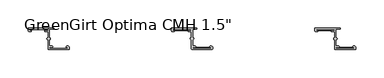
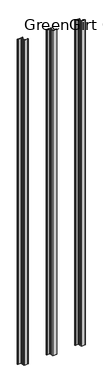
"""IFC4 building model written with IfcOpenShell, lengths in millimetres: fastener geometry."""

from ifc_helpers import new_model, si_unit, frame, origin, origin_with_axes, place, context, project, spatial, polyline, circle_curve, outline, extrude, source, transform, mapped, element, save
from ifc_brep_helpers import plane_surface, cylinder_surface, revolved_surface, advanced_brep


def fastener_e6e345ec(model_context):
    return source(origin(), model_context, "Body", "SolidModel", [
        advanced_brep(
        [(2340.102, -2.794, 3048.0), (2371.471, -2.794, 3048.0), (2371.471, -4.5212, 3048.0), (2367.28, -4.5212, 3048.0), (2367.28, -6.5532, 3048.0), (2371.471, -6.5532, 3048.0), (2372.233, -7.3152, 3048.0), (2372.233, -17.7601563, 3048.0), (2371.3845567, -17.7601563, 3048.0), (2371.3845567, -20.4288947, 3048.0), (2372.233, -20.4288947, 3048.0), (2372.233, -37.3379766, 3048.0), (2372.995, -38.0999766, 3048.0), (2408.8513242, -38.1, 3048.0), (2409.571, -37.3379766, 3048.0), (2409.571, -34.4677766, 3048.0), (2407.539, -32.4357766, 3048.0), (2405.253, -32.4357766, 3048.0), (2405.253, -34.4677766, 3048.0), (2406.269, -34.4677766, 3048.0), (2406.269, -36.1949766, 3048.0), (2374.9, -36.1949766, 3048.0), (2374.9, -34.4677766, 3048.0), (2379.091, -34.4677766, 3048.0), (2379.091, -32.4357766, 3048.0), (2374.9, -32.4357766, 3048.0), (2374.138, -31.6737766, 3048.0), (2374.138, -20.4279799, 3048.0), (2374.9869007, -20.4279799, 3048.0), (2374.9869007, -17.7601563, 3048.0), (2374.138, -17.7601563, 3048.0), (2374.138, -2.667, 3048.0), (2374.9, -1.905, 3048.0), (2380.996, -1.905, 3048.0), (2380.996, 0.0, 3048.0), (2337.562, 0.0, 3048.0), (2336.8, -0.762, 3048.0), (2336.8, -4.5212, 3048.0), (2338.832, -6.5532, 3048.0), (2341.118, -6.5532, 3048.0), (2341.118, -4.5212, 3048.0), (2340.102, -4.5212, 3048.0), (2340.102, -2.794, 0.0), (2340.102, -4.5212, 0.0), (2341.118, -4.5212, 0.0), (2341.118, -6.5532, 0.0), (2338.832, -6.5532, 0.0), (2336.8, -4.5212, 0.0), (2336.8, -0.762, 0.0), (2337.562, 0.0, 0.0), (2380.996, 0.0, 0.0), (2380.996, -1.905, 0.0), (2374.9, -1.905, 0.0), (2374.138, -2.667, 0.0), (2374.138, -17.7601563, 0.0), (2374.9869007, -17.7601563, 0.0), (2374.9869007, -20.4279799, 0.0), (2374.138, -20.4279799, 0.0), (2374.138, -31.6737766, 0.0), (2374.9, -32.4357766, 0.0), (2379.091, -32.4357766, 0.0), (2379.091, -34.4677766, 0.0), (2374.9, -34.4677766, 0.0), (2374.9, -36.1949766, 0.0), (2406.269, -36.1949766, 0.0), (2406.269, -34.4677766, 0.0), (2405.253, -34.4677766, 0.0), (2405.253, -32.4357766, 0.0), (2407.539, -32.4357766, 0.0), (2409.571, -34.4677766, 0.0), (2409.571, -37.3379766, 0.0), (2408.809, -38.0999766, 0.0), (2372.9676774, -38.1, 0.0), (2372.233, -37.3379766, 0.0), (2372.233, -20.4288947, 0.0), (2371.3845567, -20.4288947, 0.0), (2371.3845567, -17.7601563, 0.0), (2372.233, -17.7601563, 0.0), (2372.233, -7.3152, 0.0), (2371.471, -6.5532, 0.0), (2367.28, -6.5532, 0.0), (2367.28, -4.5212, 0.0), (2371.471, -4.5212, 0.0), (2371.471, -2.794, 0.0)],
        [
            (0, 1),
            (1, 2, circle_curve(frame((2371.471, -3.6576, 3048.0), z_axis=(0.0, 0.0, -1.0), x_axis=(1.0, 0.0, 0.0)), 0.8636)),
            (2, 3),
            (3, 4, circle_curve(frame((2367.28, -5.5372, 3048.0), z_axis=(0.0, 0.0, 1.0), x_axis=(1.0, 0.0, 0.0)), 1.016)),
            (4, 5),
            (5, 6, circle_curve(frame((2371.471, -7.3152, 3048.0), z_axis=(0.0, 0.0, -1.0), x_axis=(1.0, 0.0, 0.0)), 0.762)),
            (6, 7),
            (7, 8),
            (8, 9, circle_curve(frame((2371.3845567, -19.0945255, 3048.0), z_axis=(0.0, 0.0, 1.0), x_axis=(1.0, 0.0, 0.0)), 1.3343692)),
            (9, 10),
            (10, 11),
            (11, 12, circle_curve(frame((2372.995, -37.3379766, 3048.0), z_axis=(0.0, 0.0, 1.0), x_axis=(1.0, 0.0, 0.0)), 0.762)),
            (12, 13),
            (13, 14, circle_curve(frame((2408.809, -37.3379766, 3048.0), z_axis=(0.0, 0.0, 1.0), x_axis=(1.0, 0.0, 0.0)), 0.762)),
            (14, 15),
            (15, 16, circle_curve(frame((2407.539, -34.4677766, 3048.0), z_axis=(0.0, 0.0, 1.0), x_axis=(1.0, 0.0, 0.0)), 2.032)),
            (16, 17),
            (17, 18, circle_curve(frame((2405.253, -33.4517766, 3048.0), z_axis=(0.0, 0.0, 1.0), x_axis=(1.0, 0.0, 0.0)), 1.016)),
            (18, 19),
            (19, 20, circle_curve(frame((2406.269, -35.3313766, 3048.0), z_axis=(0.0, 0.0, -1.0), x_axis=(1.0, 0.0, 0.0)), 0.8636)),
            (20, 21),
            (21, 22, circle_curve(frame((2374.9, -35.3313766, 3048.0), z_axis=(0.0, 0.0, -1.0), x_axis=(1.0, 0.0, 0.0)), 0.8636)),
            (22, 23),
            (23, 24, circle_curve(frame((2379.091, -33.4517766, 3048.0), z_axis=(0.0, 0.0, 1.0), x_axis=(1.0, 0.0, 0.0)), 1.016)),
            (24, 25),
            (25, 26, circle_curve(frame((2374.9, -31.6737766, 3048.0), z_axis=(0.0, 0.0, -1.0), x_axis=(1.0, 0.0, 0.0)), 0.762)),
            (26, 27),
            (27, 28),
            (28, 29, circle_curve(frame((2374.9869007, -19.0940681, 3048.0), z_axis=(0.0, 0.0, 1.0), x_axis=(1.0, 0.0, 0.0)), 1.3339118)),
            (29, 30),
            (30, 31),
            (31, 32, circle_curve(frame((2374.9, -2.667, 3048.0), z_axis=(0.0, 0.0, -1.0), x_axis=(1.0, 0.0, 0.0)), 0.762)),
            (32, 33),
            (33, 34, circle_curve(frame((2380.996, -0.9525, 3048.0), z_axis=(0.0, 0.0, 1.0), x_axis=(1.0, 0.0, 0.0)), 0.9525)),
            (34, 35),
            (35, 36, circle_curve(frame((2337.562, -0.762, 3048.0), z_axis=(0.0, 0.0, 1.0), x_axis=(1.0, 0.0, 0.0)), 0.762)),
            (36, 37),
            (37, 38, circle_curve(frame((2338.832, -4.5212, 3048.0), z_axis=(0.0, 0.0, 1.0), x_axis=(1.0, 0.0, 0.0)), 2.032)),
            (38, 39),
            (39, 40, circle_curve(frame((2341.118, -5.5372, 3048.0), z_axis=(0.0, 0.0, 1.0), x_axis=(1.0, 0.0, 0.0)), 1.016)),
            (40, 41),
            (41, 0, circle_curve(frame((2340.102, -3.6576, 3048.0), z_axis=(0.0, 0.0, -1.0), x_axis=(1.0, 0.0, 0.0)), 0.8636)),
            (42, 43, circle_curve(frame((2340.102, -3.6576, 0.0), z_axis=(0.0, 0.0, 1.0), x_axis=(1.0, 0.0, 0.0)), 0.8636)),
            (43, 44),
            (44, 45, circle_curve(frame((2341.118, -5.5372, 0.0), z_axis=(0.0, 0.0, -1.0), x_axis=(1.0, 0.0, 0.0)), 1.016)),
            (45, 46),
            (46, 47, circle_curve(frame((2338.832, -4.5212, 0.0), z_axis=(0.0, 0.0, -1.0), x_axis=(1.0, 0.0, 0.0)), 2.032)),
            (47, 48),
            (48, 49, circle_curve(frame((2337.562, -0.762, 0.0), z_axis=(0.0, 0.0, -1.0), x_axis=(1.0, 0.0, 0.0)), 0.762)),
            (49, 50),
            (50, 51, circle_curve(frame((2380.996, -0.9525, 0.0), z_axis=(0.0, 0.0, -1.0), x_axis=(1.0, 0.0, 0.0)), 0.9525)),
            (51, 52),
            (52, 53, circle_curve(frame((2374.9, -2.667, 0.0), z_axis=(0.0, 0.0, 1.0), x_axis=(1.0, 0.0, 0.0)), 0.762)),
            (53, 54),
            (54, 55),
            (55, 56, circle_curve(frame((2374.9869007, -19.0940681, 0.0), z_axis=(0.0, 0.0, -1.0), x_axis=(1.0, 0.0, 0.0)), 1.3339118)),
            (56, 57),
            (57, 58),
            (58, 59, circle_curve(frame((2374.9, -31.6737766, 0.0), z_axis=(0.0, 0.0, 1.0), x_axis=(1.0, 0.0, 0.0)), 0.762)),
            (59, 60),
            (60, 61, circle_curve(frame((2379.091, -33.4517766, 0.0), z_axis=(0.0, 0.0, -1.0), x_axis=(1.0, 0.0, 0.0)), 1.016)),
            (61, 62),
            (62, 63, circle_curve(frame((2374.9, -35.3313766, 0.0), z_axis=(0.0, 0.0, 1.0), x_axis=(1.0, 0.0, 0.0)), 0.8636)),
            (63, 64),
            (64, 65, circle_curve(frame((2406.269, -35.3313766, 0.0), z_axis=(0.0, 0.0, 1.0), x_axis=(1.0, 0.0, 0.0)), 0.8636)),
            (65, 66),
            (66, 67, circle_curve(frame((2405.253, -33.4517766, 0.0), z_axis=(0.0, 0.0, -1.0), x_axis=(1.0, 0.0, 0.0)), 1.016)),
            (67, 68),
            (68, 69, circle_curve(frame((2407.539, -34.4677766, 0.0), z_axis=(0.0, 0.0, -1.0), x_axis=(1.0, 0.0, 0.0)), 2.032)),
            (69, 70),
            (70, 71, circle_curve(frame((2408.809, -37.3379766, 0.0), z_axis=(0.0, 0.0, -1.0), x_axis=(1.0, 0.0, 0.0)), 0.762)),
            (71, 72),
            (72, 73, circle_curve(frame((2372.995, -37.3379766, 0.0), z_axis=(0.0, 0.0, -1.0), x_axis=(1.0, 0.0, 0.0)), 0.762)),
            (73, 74),
            (74, 75),
            (75, 76, circle_curve(frame((2371.3845567, -19.0945255, 0.0), z_axis=(0.0, 0.0, -1.0), x_axis=(1.0, 0.0, 0.0)), 1.3343692)),
            (76, 77),
            (77, 78),
            (78, 79, circle_curve(frame((2371.471, -7.3152, 0.0), z_axis=(0.0, 0.0, 1.0), x_axis=(1.0, 0.0, 0.0)), 0.762)),
            (79, 80),
            (80, 81, circle_curve(frame((2367.28, -5.5372, 0.0), z_axis=(0.0, 0.0, -1.0), x_axis=(1.0, 0.0, 0.0)), 1.016)),
            (81, 82),
            (82, 83, circle_curve(frame((2371.471, -3.6576, 0.0), z_axis=(0.0, 0.0, 1.0), x_axis=(1.0, 0.0, 0.0)), 0.8636)),
            (83, 42),
            (0, 42),
            (83, 1),
            (82, 2),
            (81, 3),
            (80, 4),
            (79, 5),
            (78, 6),
            (77, 7),
            (76, 8),
            (75, 9),
            (74, 10),
            (73, 11),
            (72, 12),
            (71, 13),
            (70, 14),
            (69, 15),
            (68, 16),
            (67, 17),
            (66, 18),
            (65, 19),
            (64, 20),
            (63, 21),
            (62, 22),
            (61, 23),
            (60, 24),
            (59, 25),
            (58, 26),
            (57, 27),
            (56, 28),
            (55, 29),
            (54, 30),
            (53, 31),
            (52, 32),
            (51, 33),
            (50, 34),
            (49, 35),
            (48, 36),
            (47, 37),
            (46, 38),
            (45, 39),
            (44, 40),
            (43, 41),
        ],
        [
            plane_surface(frame((2371.471, -2.794, 3048.0), z_axis=(0.0, 0.0, 1.0), x_axis=(1.0, 0.0, 0.0))),
            plane_surface(frame((2371.471, -2.794, 0.0), z_axis=(0.0, 0.0, -1.0), x_axis=(-1.0, 0.0, 0.0))),
            plane_surface(frame((2340.102, -2.794, 3048.0), z_axis=(0.0, -1.0, 0.0), x_axis=(0.0, 0.0, -1.0))),
            revolved_surface(polyline([(2372.3346, -3.6576, 0.0), (2372.3346, -3.6576, 3048.0)]), (2371.471, -3.6576, 0.0), (0.0, 0.0, -1.0)),
            plane_surface(frame((2371.471, -4.5212, 3048.0), z_axis=(0.0, 1.0, 0.0), x_axis=(0.0, 0.0, -1.0))),
            cylinder_surface(frame((2367.28, -5.5372, 0.0), z_axis=(0.0, 0.0, 1.0), x_axis=(1.0, 0.0, 0.0)), 1.016),
            plane_surface(frame((2367.28, -6.5532, 3048.0), z_axis=(0.0, -1.0, 0.0), x_axis=(0.0, 0.0, -1.0))),
            revolved_surface(polyline([(2372.233, -7.3152, 0.0), (2372.233, -7.3152, 3048.0)]), (2371.471, -7.3152, 0.0), (0.0, 0.0, -1.0)),
            plane_surface(frame((2372.233, -7.3152, 3048.0), z_axis=(-1.0, 0.0, 0.0), x_axis=(0.0, 0.0, -1.0))),
            plane_surface(frame((2372.233, -17.7601563, 3048.0), z_axis=(0.0, 1.0, 0.0), x_axis=(0.0, 0.0, -1.0))),
            cylinder_surface(frame((2371.3845567, -19.0945255, 0.0), z_axis=(0.0, 0.0, 1.0), x_axis=(1.0, 0.0, 0.0)), 1.3343692),
            plane_surface(frame((2371.3845567, -20.4288947, 3048.0), z_axis=(0.0, -1.0, 0.0), x_axis=(0.0, 0.0, -1.0))),
            plane_surface(frame((2372.233, -20.4288947, 3048.0), z_axis=(-1.0, 0.0, 0.0), x_axis=(0.0, 0.0, -1.0))),
            cylinder_surface(frame((2372.995, -37.3379766, 0.0), z_axis=(0.0, 0.0, 1.0), x_axis=(1.0, 0.0, 0.0)), 0.762),
            plane_surface(frame((2372.9676774, -38.1, 3048.0), z_axis=(0.0, -1.0, 0.0), x_axis=(0.0, 0.0, -1.0))),
            cylinder_surface(frame((2408.809, -37.3379766, 0.0), z_axis=(0.0, 0.0, 1.0), x_axis=(1.0, 0.0, 0.0)), 0.762),
            plane_surface(frame((2409.571, -37.3379766, 3048.0), z_axis=(1.0, 1.3794275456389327e-12, 0.0), x_axis=(0.0, 0.0, -1.0))),
            cylinder_surface(frame((2407.539, -34.4677766, 0.0), z_axis=(0.0, 0.0, 1.0), x_axis=(1.0, 0.0, 0.0)), 2.032),
            plane_surface(frame((2407.539, -32.4357766, 3048.0), z_axis=(0.0, 1.0, 0.0), x_axis=(0.0, 0.0, -1.0))),
            cylinder_surface(frame((2405.253, -33.4517766, 0.0), z_axis=(0.0, 0.0, 1.0), x_axis=(1.0, 0.0, 0.0)), 1.016),
            plane_surface(frame((2405.253, -34.4677766, 3048.0), z_axis=(0.0, -1.0, 0.0), x_axis=(0.0, 0.0, -1.0))),
            revolved_surface(polyline([(2407.1326, -35.3313766, 0.0), (2407.1326, -35.3313766, 3048.0)]), (2406.269, -35.3313766, 0.0), (0.0, 0.0, -1.0)),
            plane_surface(frame((2406.269, -36.1949766, 3048.0), z_axis=(0.0, 1.0, 0.0), x_axis=(0.0, 0.0, -1.0))),
            revolved_surface(polyline([(2375.7636, -35.3313766, 0.0), (2375.7636, -35.3313766, 3048.0)]), (2374.9, -35.3313766, 0.0), (0.0, 0.0, -1.0)),
            plane_surface(frame((2374.9, -34.4677766, 3048.0), z_axis=(0.0, -1.0, 0.0), x_axis=(0.0, 0.0, -1.0))),
            cylinder_surface(frame((2379.091, -33.4517766, 0.0), z_axis=(0.0, 0.0, 1.0), x_axis=(1.0, 0.0, 0.0)), 1.016),
            plane_surface(frame((2379.091, -32.4357766, 3048.0), z_axis=(0.0, 1.0, 0.0), x_axis=(0.0, 0.0, -1.0))),
            revolved_surface(polyline([(2375.6620000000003, -31.6737766, 0.0), (2375.6620000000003, -31.6737766, 3048.0)]), (2374.9, -31.6737766, 0.0), (0.0, 0.0, -1.0)),
            plane_surface(frame((2374.138, -31.6737766, 3048.0), z_axis=(1.0, 0.0, 0.0), x_axis=(0.0, 0.0, -1.0))),
            plane_surface(frame((2374.138, -20.4279799, 3048.0), z_axis=(0.0, -1.0, 0.0), x_axis=(0.0, 0.0, -1.0))),
            cylinder_surface(frame((2374.9869007, -19.0940681, 0.0), z_axis=(0.0, 0.0, 1.0), x_axis=(1.0, 0.0, 0.0)), 1.3339118),
            plane_surface(frame((2374.9869007, -17.7601563, 3048.0), z_axis=(0.0, 1.0, 0.0), x_axis=(0.0, 0.0, -1.0))),
            plane_surface(frame((2374.138, -17.7601563, 3048.0), z_axis=(1.0, 0.0, 0.0), x_axis=(0.0, 0.0, -1.0))),
            revolved_surface(polyline([(2375.6620000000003, -2.667, 0.0), (2375.6620000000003, -2.667, 3048.0)]), (2374.9, -2.667, 0.0), (0.0, 0.0, -1.0)),
            plane_surface(frame((2374.9, -1.905, 3048.0), z_axis=(0.0, -1.0, 0.0), x_axis=(0.0, 0.0, -1.0))),
            cylinder_surface(frame((2380.996, -0.9525, 0.0), z_axis=(0.0, 0.0, 1.0), x_axis=(1.0, 0.0, 0.0)), 0.9525),
            plane_surface(frame((2380.996, 0.0, 3048.0), z_axis=(0.0, 1.0, 0.0), x_axis=(0.0, 0.0, -1.0))),
            cylinder_surface(frame((2337.562, -0.762, 0.0), z_axis=(0.0, 0.0, 1.0), x_axis=(1.0, 0.0, 0.0)), 0.762),
            plane_surface(frame((2336.8, -0.762, 3048.0), z_axis=(-1.0, 2.681638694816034e-11, 0.0), x_axis=(0.0, 0.0, -1.0))),
            cylinder_surface(frame((2338.832, -4.5212, 0.0), z_axis=(0.0, 0.0, 1.0), x_axis=(1.0, 0.0, 0.0)), 2.032),
            plane_surface(frame((2338.832, -6.5532, 3048.0), z_axis=(0.0, -1.0, 0.0), x_axis=(0.0, 0.0, -1.0))),
            cylinder_surface(frame((2341.118, -5.5372, 0.0), z_axis=(0.0, 0.0, 1.0), x_axis=(1.0, 0.0, 0.0)), 1.016),
            plane_surface(frame((2341.118, -4.5212, 3048.0), z_axis=(0.0, 1.0, 0.0), x_axis=(0.0, 0.0, -1.0))),
            revolved_surface(polyline([(2340.9656, -3.6576, 0.0), (2340.9656, -3.6576, 3048.0)]), (2340.102, -3.6576, 0.0), (0.0, 0.0, -1.0)),
        ],
        [
            (0, [[1, 2, 3, 4, 5, 6, 7, 8, 9, 10, 11, 12, 13, 14, 15, 16, 17, 18, 19, 20, 21, 22, 23, 24, 25, 26, 27, 28, 29, 30, 31, 32, 33, 34, 35, 36, 37, 38, 39, 40, 41, 42]]),
            (1, [[43, 44, 45, 46, 47, 48, 49, 50, 51, 52, 53, 54, 55, 56, 57, 58, 59, 60, 61, 62, 63, 64, 65, 66, 67, 68, 69, 70, 71, 72, 73, 74, 75, 76, 77, 78, 79, 80, 81, 82, 83, 84]]),
            (2, [[-1, 85, -84, 86]]),
            (3, [[-2, -86, -83, 87]]),
            (4, [[-3, -87, -82, 88]]),
            (5, [[-4, -88, -81, 89]]),
            (6, [[-5, -89, -80, 90]]),
            (7, [[-6, -90, -79, 91]]),
            (8, [[-7, -91, -78, 92]]),
            (9, [[-8, -92, -77, 93]]),
            (10, [[-9, -93, -76, 94]]),
            (11, [[-10, -94, -75, 95]]),
            (12, [[-11, -95, -74, 96]]),
            (13, [[-12, -96, -73, 97]]),
            (14, [[-13, -97, -72, 98]]),
            (15, [[-14, -98, -71, 99]]),
            (16, [[-15, -99, -70, 100]]),
            (17, [[-16, -100, -69, 101]]),
            (18, [[-17, -101, -68, 102]]),
            (19, [[-18, -102, -67, 103]]),
            (20, [[-19, -103, -66, 104]]),
            (21, [[-20, -104, -65, 105]]),
            (22, [[-21, -105, -64, 106]]),
            (23, [[-22, -106, -63, 107]]),
            (24, [[-23, -107, -62, 108]]),
            (25, [[-24, -108, -61, 109]]),
            (26, [[-25, -109, -60, 110]]),
            (27, [[-26, -110, -59, 111]]),
            (28, [[-27, -111, -58, 112]]),
            (29, [[-28, -112, -57, 113]]),
            (30, [[-29, -113, -56, 114]]),
            (31, [[-30, -114, -55, 115]]),
            (32, [[-31, -115, -54, 116]]),
            (33, [[-32, -116, -53, 117]]),
            (34, [[-33, -117, -52, 118]]),
            (35, [[-34, -118, -51, 119]]),
            (36, [[-35, -119, -50, 120]]),
            (37, [[-36, -120, -49, 121]]),
            (38, [[-37, -121, -48, 122]]),
            (39, [[-38, -122, -47, 123]]),
            (40, [[-39, -123, -46, 124]]),
            (41, [[-40, -124, -45, 125]]),
            (42, [[-41, -125, -44, 126]]),
            (43, [[-42, -126, -43, -85]]),
        ],
    ),
        extrude(outline(polyline([(2371.09, -2.794), (2371.09, -4.5212), (2340.102, -4.5212), (2340.102, -2.794), (2371.09, -2.794)])), origin_with_axes(), (0.0, 0.0, 1.0), 3048.0),
        extrude(outline(polyline([(2406.269, -34.4677766), (2406.269, -36.1949766), (2375.281, -36.1949766), (2375.281, -34.4677766), (2406.269, -34.4677766)])), origin_with_axes(), (0.0, 0.0, 1.0), 3048.0),
        advanced_brep(
        [(2086.102, -2.794, 3048.0), (2117.471, -2.794, 3048.0), (2117.471, -4.5212, 3048.0), (2113.28, -4.5212, 3048.0), (2113.28, -6.5532, 3048.0), (2117.471, -6.5532, 3048.0), (2118.233, -7.3152, 3048.0), (2118.233, -17.7601563, 3048.0), (2117.3845567, -17.7601563, 3048.0), (2117.3845567, -20.4288947, 3048.0), (2118.233, -20.4288947, 3048.0), (2118.233, -37.3379766, 3048.0), (2118.995, -38.0999766, 3048.0), (2154.8513242, -38.1, 3048.0), (2155.571, -37.3379766, 3048.0), (2155.571, -34.4677766, 3048.0), (2153.539, -32.4357766, 3048.0), (2151.253, -32.4357766, 3048.0), (2151.253, -34.4677766, 3048.0), (2152.269, -34.4677766, 3048.0), (2152.269, -36.1949766, 3048.0), (2120.9, -36.1949766, 3048.0), (2120.9, -34.4677766, 3048.0), (2125.091, -34.4677766, 3048.0), (2125.091, -32.4357766, 3048.0), (2120.9, -32.4357766, 3048.0), (2120.138, -31.6737766, 3048.0), (2120.138, -20.4279799, 3048.0), (2120.9869007, -20.4279799, 3048.0), (2120.9869007, -17.7601563, 3048.0), (2120.138, -17.7601563, 3048.0), (2120.138, -2.667, 3048.0), (2120.9, -1.905, 3048.0), (2126.996, -1.905, 3048.0), (2126.996, 0.0, 3048.0), (2083.562, 0.0, 3048.0), (2082.8, -0.762, 3048.0), (2082.8, -4.5212, 3048.0), (2084.832, -6.5532, 3048.0), (2087.118, -6.5532, 3048.0), (2087.118, -4.5212, 3048.0), (2086.102, -4.5212, 3048.0), (2086.102, -2.794, 0.0), (2086.102, -4.5212, 0.0), (2087.118, -4.5212, 0.0), (2087.118, -6.5532, 0.0), (2084.832, -6.5532, 0.0), (2082.8, -4.5212, 0.0), (2082.8, -0.762, 0.0), (2083.562, 0.0, 0.0), (2126.996, 0.0, 0.0), (2126.996, -1.905, 0.0), (2120.9, -1.905, 0.0), (2120.138, -2.667, 0.0), (2120.138, -17.7601563, 0.0), (2120.9869007, -17.7601563, 0.0), (2120.9869007, -20.4279799, 0.0), (2120.138, -20.4279799, 0.0), (2120.138, -31.6737766, 0.0), (2120.9, -32.4357766, 0.0), (2125.091, -32.4357766, 0.0), (2125.091, -34.4677766, 0.0), (2120.9, -34.4677766, 0.0), (2120.9, -36.1949766, 0.0), (2152.269, -36.1949766, 0.0), (2152.269, -34.4677766, 0.0), (2151.253, -34.4677766, 0.0), (2151.253, -32.4357766, 0.0), (2153.539, -32.4357766, 0.0), (2155.571, -34.4677766, 0.0), (2155.571, -37.3379766, 0.0), (2154.809, -38.0999766, 0.0), (2118.9676774, -38.1, 0.0), (2118.233, -37.3379766, 0.0), (2118.233, -20.4288947, 0.0), (2117.3845567, -20.4288947, 0.0), (2117.3845567, -17.7601563, 0.0), (2118.233, -17.7601563, 0.0), (2118.233, -7.3152, 0.0), (2117.471, -6.5532, 0.0), (2113.28, -6.5532, 0.0), (2113.28, -4.5212, 0.0), (2117.471, -4.5212, 0.0), (2117.471, -2.794, 0.0)],
        [
            (0, 1),
            (1, 2, circle_curve(frame((2117.471, -3.6576, 3048.0), z_axis=(0.0, 0.0, -1.0), x_axis=(1.0, 0.0, 0.0)), 0.8636)),
            (2, 3),
            (3, 4, circle_curve(frame((2113.28, -5.5372, 3048.0), z_axis=(0.0, 0.0, 1.0), x_axis=(1.0, 0.0, 0.0)), 1.016)),
            (4, 5),
            (5, 6, circle_curve(frame((2117.471, -7.3152, 3048.0), z_axis=(0.0, 0.0, -1.0), x_axis=(1.0, 0.0, 0.0)), 0.762)),
            (6, 7),
            (7, 8),
            (8, 9, circle_curve(frame((2117.3845567, -19.0945255, 3048.0), z_axis=(0.0, 0.0, 1.0), x_axis=(1.0, 0.0, 0.0)), 1.3343692)),
            (9, 10),
            (10, 11),
            (11, 12, circle_curve(frame((2118.995, -37.3379766, 3048.0), z_axis=(0.0, 0.0, 1.0), x_axis=(1.0, 0.0, 0.0)), 0.762)),
            (12, 13),
            (13, 14, circle_curve(frame((2154.809, -37.3379766, 3048.0), z_axis=(0.0, 0.0, 1.0), x_axis=(1.0, 0.0, 0.0)), 0.762)),
            (14, 15),
            (15, 16, circle_curve(frame((2153.539, -34.4677766, 3048.0), z_axis=(0.0, 0.0, 1.0), x_axis=(1.0, 0.0, 0.0)), 2.032)),
            (16, 17),
            (17, 18, circle_curve(frame((2151.253, -33.4517766, 3048.0), z_axis=(0.0, 0.0, 1.0), x_axis=(1.0, 0.0, 0.0)), 1.016)),
            (18, 19),
            (19, 20, circle_curve(frame((2152.269, -35.3313766, 3048.0), z_axis=(0.0, 0.0, -1.0), x_axis=(1.0, 0.0, 0.0)), 0.8636)),
            (20, 21),
            (21, 22, circle_curve(frame((2120.9, -35.3313766, 3048.0), z_axis=(0.0, 0.0, -1.0), x_axis=(1.0, 0.0, 0.0)), 0.8636)),
            (22, 23),
            (23, 24, circle_curve(frame((2125.091, -33.4517766, 3048.0), z_axis=(0.0, 0.0, 1.0), x_axis=(1.0, 0.0, 0.0)), 1.016)),
            (24, 25),
            (25, 26, circle_curve(frame((2120.9, -31.6737766, 3048.0), z_axis=(0.0, 0.0, -1.0), x_axis=(1.0, 0.0, 0.0)), 0.762)),
            (26, 27),
            (27, 28),
            (28, 29, circle_curve(frame((2120.9869007, -19.0940681, 3048.0), z_axis=(0.0, 0.0, 1.0), x_axis=(1.0, 0.0, 0.0)), 1.3339118)),
            (29, 30),
            (30, 31),
            (31, 32, circle_curve(frame((2120.9, -2.667, 3048.0), z_axis=(0.0, 0.0, -1.0), x_axis=(1.0, 0.0, 0.0)), 0.762)),
            (32, 33),
            (33, 34, circle_curve(frame((2126.996, -0.9525, 3048.0), z_axis=(0.0, 0.0, 1.0), x_axis=(1.0, 0.0, 0.0)), 0.9525)),
            (34, 35),
            (35, 36, circle_curve(frame((2083.562, -0.762, 3048.0), z_axis=(0.0, 0.0, 1.0), x_axis=(1.0, 0.0, 0.0)), 0.762)),
            (36, 37),
            (37, 38, circle_curve(frame((2084.832, -4.5212, 3048.0), z_axis=(0.0, 0.0, 1.0), x_axis=(1.0, 0.0, 0.0)), 2.032)),
            (38, 39),
            (39, 40, circle_curve(frame((2087.118, -5.5372, 3048.0), z_axis=(0.0, 0.0, 1.0), x_axis=(1.0, 0.0, 0.0)), 1.016)),
            (40, 41),
            (41, 0, circle_curve(frame((2086.102, -3.6576, 3048.0), z_axis=(0.0, 0.0, -1.0), x_axis=(1.0, 0.0, 0.0)), 0.8636)),
            (42, 43, circle_curve(frame((2086.102, -3.6576, 0.0), z_axis=(0.0, 0.0, 1.0), x_axis=(1.0, 0.0, 0.0)), 0.8636)),
            (43, 44),
            (44, 45, circle_curve(frame((2087.118, -5.5372, 0.0), z_axis=(0.0, 0.0, -1.0), x_axis=(1.0, 0.0, 0.0)), 1.016)),
            (45, 46),
            (46, 47, circle_curve(frame((2084.832, -4.5212, 0.0), z_axis=(0.0, 0.0, -1.0), x_axis=(1.0, 0.0, 0.0)), 2.032)),
            (47, 48),
            (48, 49, circle_curve(frame((2083.562, -0.762, 0.0), z_axis=(0.0, 0.0, -1.0), x_axis=(1.0, 0.0, 0.0)), 0.762)),
            (49, 50),
            (50, 51, circle_curve(frame((2126.996, -0.9525, 0.0), z_axis=(0.0, 0.0, -1.0), x_axis=(1.0, 0.0, 0.0)), 0.9525)),
            (51, 52),
            (52, 53, circle_curve(frame((2120.9, -2.667, 0.0), z_axis=(0.0, 0.0, 1.0), x_axis=(1.0, 0.0, 0.0)), 0.762)),
            (53, 54),
            (54, 55),
            (55, 56, circle_curve(frame((2120.9869007, -19.0940681, 0.0), z_axis=(0.0, 0.0, -1.0), x_axis=(1.0, 0.0, 0.0)), 1.3339118)),
            (56, 57),
            (57, 58),
            (58, 59, circle_curve(frame((2120.9, -31.6737766, 0.0), z_axis=(0.0, 0.0, 1.0), x_axis=(1.0, 0.0, 0.0)), 0.762)),
            (59, 60),
            (60, 61, circle_curve(frame((2125.091, -33.4517766, 0.0), z_axis=(0.0, 0.0, -1.0), x_axis=(1.0, 0.0, 0.0)), 1.016)),
            (61, 62),
            (62, 63, circle_curve(frame((2120.9, -35.3313766, 0.0), z_axis=(0.0, 0.0, 1.0), x_axis=(1.0, 0.0, 0.0)), 0.8636)),
            (63, 64),
            (64, 65, circle_curve(frame((2152.269, -35.3313766, 0.0), z_axis=(0.0, 0.0, 1.0), x_axis=(1.0, 0.0, 0.0)), 0.8636)),
            (65, 66),
            (66, 67, circle_curve(frame((2151.253, -33.4517766, 0.0), z_axis=(0.0, 0.0, -1.0), x_axis=(1.0, 0.0, 0.0)), 1.016)),
            (67, 68),
            (68, 69, circle_curve(frame((2153.539, -34.4677766, 0.0), z_axis=(0.0, 0.0, -1.0), x_axis=(1.0, 0.0, 0.0)), 2.032)),
            (69, 70),
            (70, 71, circle_curve(frame((2154.809, -37.3379766, 0.0), z_axis=(0.0, 0.0, -1.0), x_axis=(1.0, 0.0, 0.0)), 0.762)),
            (71, 72),
            (72, 73, circle_curve(frame((2118.995, -37.3379766, 0.0), z_axis=(0.0, 0.0, -1.0), x_axis=(1.0, 0.0, 0.0)), 0.762)),
            (73, 74),
            (74, 75),
            (75, 76, circle_curve(frame((2117.3845567, -19.0945255, 0.0), z_axis=(0.0, 0.0, -1.0), x_axis=(1.0, 0.0, 0.0)), 1.3343692)),
            (76, 77),
            (77, 78),
            (78, 79, circle_curve(frame((2117.471, -7.3152, 0.0), z_axis=(0.0, 0.0, 1.0), x_axis=(1.0, 0.0, 0.0)), 0.762)),
            (79, 80),
            (80, 81, circle_curve(frame((2113.28, -5.5372, 0.0), z_axis=(0.0, 0.0, -1.0), x_axis=(1.0, 0.0, 0.0)), 1.016)),
            (81, 82),
            (82, 83, circle_curve(frame((2117.471, -3.6576, 0.0), z_axis=(0.0, 0.0, 1.0), x_axis=(1.0, 0.0, 0.0)), 0.8636)),
            (83, 42),
            (0, 42),
            (83, 1),
            (82, 2),
            (81, 3),
            (80, 4),
            (79, 5),
            (78, 6),
            (77, 7),
            (76, 8),
            (75, 9),
            (74, 10),
            (73, 11),
            (72, 12),
            (71, 13),
            (70, 14),
            (69, 15),
            (68, 16),
            (67, 17),
            (66, 18),
            (65, 19),
            (64, 20),
            (63, 21),
            (62, 22),
            (61, 23),
            (60, 24),
            (59, 25),
            (58, 26),
            (57, 27),
            (56, 28),
            (55, 29),
            (54, 30),
            (53, 31),
            (52, 32),
            (51, 33),
            (50, 34),
            (49, 35),
            (48, 36),
            (47, 37),
            (46, 38),
            (45, 39),
            (44, 40),
            (43, 41),
        ],
        [
            plane_surface(frame((2117.471, -2.794, 3048.0), z_axis=(0.0, 0.0, 1.0), x_axis=(1.0, 0.0, 0.0))),
            plane_surface(frame((2117.471, -2.794, 0.0), z_axis=(0.0, 0.0, -1.0), x_axis=(-1.0, 0.0, 0.0))),
            plane_surface(frame((2086.102, -2.794, 3048.0), z_axis=(0.0, -1.0, 0.0), x_axis=(0.0, 0.0, -1.0))),
            revolved_surface(polyline([(2118.3346, -3.6576, 0.0), (2118.3346, -3.6576, 3048.0)]), (2117.471, -3.6576, 0.0), (0.0, 0.0, -1.0)),
            plane_surface(frame((2117.471, -4.5212, 3048.0), z_axis=(0.0, 1.0, 0.0), x_axis=(0.0, 0.0, -1.0))),
            cylinder_surface(frame((2113.28, -5.5372, 0.0), z_axis=(0.0, 0.0, 1.0), x_axis=(1.0, 0.0, 0.0)), 1.016),
            plane_surface(frame((2113.28, -6.5532, 3048.0), z_axis=(0.0, -1.0, 0.0), x_axis=(0.0, 0.0, -1.0))),
            revolved_surface(polyline([(2118.233, -7.3152, 0.0), (2118.233, -7.3152, 3048.0)]), (2117.471, -7.3152, 0.0), (0.0, 0.0, -1.0)),
            plane_surface(frame((2118.233, -7.3152, 3048.0), z_axis=(-1.0, 0.0, 0.0), x_axis=(0.0, 0.0, -1.0))),
            plane_surface(frame((2118.233, -17.7601563, 3048.0), z_axis=(0.0, 1.0, 0.0), x_axis=(0.0, 0.0, -1.0))),
            cylinder_surface(frame((2117.3845567, -19.0945255, 0.0), z_axis=(0.0, 0.0, 1.0), x_axis=(1.0, 0.0, 0.0)), 1.3343692),
            plane_surface(frame((2117.3845567, -20.4288947, 3048.0), z_axis=(0.0, -1.0, 0.0), x_axis=(0.0, 0.0, -1.0))),
            plane_surface(frame((2118.233, -20.4288947, 3048.0), z_axis=(-1.0, 0.0, 0.0), x_axis=(0.0, 0.0, -1.0))),
            cylinder_surface(frame((2118.995, -37.3379766, 0.0), z_axis=(0.0, 0.0, 1.0), x_axis=(1.0, 0.0, 0.0)), 0.762),
            plane_surface(frame((2118.9676774, -38.1, 3048.0), z_axis=(0.0, -1.0, 0.0), x_axis=(0.0, 0.0, -1.0))),
            cylinder_surface(frame((2154.809, -37.3379766, 0.0), z_axis=(0.0, 0.0, 1.0), x_axis=(1.0, 0.0, 0.0)), 0.762),
            plane_surface(frame((2155.571, -37.3379766, 3048.0), z_axis=(1.0, 1.3794275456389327e-12, 0.0), x_axis=(0.0, 0.0, -1.0))),
            cylinder_surface(frame((2153.539, -34.4677766, 0.0), z_axis=(0.0, 0.0, 1.0), x_axis=(1.0, 0.0, 0.0)), 2.032),
            plane_surface(frame((2153.539, -32.4357766, 3048.0), z_axis=(0.0, 1.0, 0.0), x_axis=(0.0, 0.0, -1.0))),
            cylinder_surface(frame((2151.253, -33.4517766, 0.0), z_axis=(0.0, 0.0, 1.0), x_axis=(1.0, 0.0, 0.0)), 1.016),
            plane_surface(frame((2151.253, -34.4677766, 3048.0), z_axis=(0.0, -1.0, 0.0), x_axis=(0.0, 0.0, -1.0))),
            revolved_surface(polyline([(2153.1326, -35.3313766, 0.0), (2153.1326, -35.3313766, 3048.0)]), (2152.269, -35.3313766, 0.0), (0.0, 0.0, -1.0)),
            plane_surface(frame((2152.269, -36.1949766, 3048.0), z_axis=(0.0, 1.0, 0.0), x_axis=(0.0, 0.0, -1.0))),
            revolved_surface(polyline([(2121.7636, -35.3313766, 0.0), (2121.7636, -35.3313766, 3048.0)]), (2120.9, -35.3313766, 0.0), (0.0, 0.0, -1.0)),
            plane_surface(frame((2120.9, -34.4677766, 3048.0), z_axis=(0.0, -1.0, 0.0), x_axis=(0.0, 0.0, -1.0))),
            cylinder_surface(frame((2125.091, -33.4517766, 0.0), z_axis=(0.0, 0.0, 1.0), x_axis=(1.0, 0.0, 0.0)), 1.016),
            plane_surface(frame((2125.091, -32.4357766, 3048.0), z_axis=(0.0, 1.0, 0.0), x_axis=(0.0, 0.0, -1.0))),
            revolved_surface(polyline([(2121.6620000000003, -31.6737766, 0.0), (2121.6620000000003, -31.6737766, 3048.0)]), (2120.9, -31.6737766, 0.0), (0.0, 0.0, -1.0)),
            plane_surface(frame((2120.138, -31.6737766, 3048.0), z_axis=(1.0, 0.0, 0.0), x_axis=(0.0, 0.0, -1.0))),
            plane_surface(frame((2120.138, -20.4279799, 3048.0), z_axis=(0.0, -1.0, 0.0), x_axis=(0.0, 0.0, -1.0))),
            cylinder_surface(frame((2120.9869007, -19.0940681, 0.0), z_axis=(0.0, 0.0, 1.0), x_axis=(1.0, 0.0, 0.0)), 1.3339118),
            plane_surface(frame((2120.9869007, -17.7601563, 3048.0), z_axis=(0.0, 1.0, 0.0), x_axis=(0.0, 0.0, -1.0))),
            plane_surface(frame((2120.138, -17.7601563, 3048.0), z_axis=(1.0, 0.0, 0.0), x_axis=(0.0, 0.0, -1.0))),
            revolved_surface(polyline([(2121.6620000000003, -2.667, 0.0), (2121.6620000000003, -2.667, 3048.0)]), (2120.9, -2.667, 0.0), (0.0, 0.0, -1.0)),
            plane_surface(frame((2120.9, -1.905, 3048.0), z_axis=(0.0, -1.0, 0.0), x_axis=(0.0, 0.0, -1.0))),
            cylinder_surface(frame((2126.996, -0.9525, 0.0), z_axis=(0.0, 0.0, 1.0), x_axis=(1.0, 0.0, 0.0)), 0.9525),
            plane_surface(frame((2126.996, 0.0, 3048.0), z_axis=(0.0, 1.0, 0.0), x_axis=(0.0, 0.0, -1.0))),
            cylinder_surface(frame((2083.562, -0.762, 0.0), z_axis=(0.0, 0.0, 1.0), x_axis=(1.0, 0.0, 0.0)), 0.762),
            plane_surface(frame((2082.8, -0.762, 3048.0), z_axis=(-1.0, 2.681638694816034e-11, 0.0), x_axis=(0.0, 0.0, -1.0))),
            cylinder_surface(frame((2084.832, -4.5212, 0.0), z_axis=(0.0, 0.0, 1.0), x_axis=(1.0, 0.0, 0.0)), 2.032),
            plane_surface(frame((2084.832, -6.5532, 3048.0), z_axis=(0.0, -1.0, 0.0), x_axis=(0.0, 0.0, -1.0))),
            cylinder_surface(frame((2087.118, -5.5372, 0.0), z_axis=(0.0, 0.0, 1.0), x_axis=(1.0, 0.0, 0.0)), 1.016),
            plane_surface(frame((2087.118, -4.5212, 3048.0), z_axis=(0.0, 1.0, 0.0), x_axis=(0.0, 0.0, -1.0))),
            revolved_surface(polyline([(2086.9656, -3.6576, 0.0), (2086.9656, -3.6576, 3048.0)]), (2086.102, -3.6576, 0.0), (0.0, 0.0, -1.0)),
        ],
        [
            (0, [[1, 2, 3, 4, 5, 6, 7, 8, 9, 10, 11, 12, 13, 14, 15, 16, 17, 18, 19, 20, 21, 22, 23, 24, 25, 26, 27, 28, 29, 30, 31, 32, 33, 34, 35, 36, 37, 38, 39, 40, 41, 42]]),
            (1, [[43, 44, 45, 46, 47, 48, 49, 50, 51, 52, 53, 54, 55, 56, 57, 58, 59, 60, 61, 62, 63, 64, 65, 66, 67, 68, 69, 70, 71, 72, 73, 74, 75, 76, 77, 78, 79, 80, 81, 82, 83, 84]]),
            (2, [[-1, 85, -84, 86]]),
            (3, [[-2, -86, -83, 87]]),
            (4, [[-3, -87, -82, 88]]),
            (5, [[-4, -88, -81, 89]]),
            (6, [[-5, -89, -80, 90]]),
            (7, [[-6, -90, -79, 91]]),
            (8, [[-7, -91, -78, 92]]),
            (9, [[-8, -92, -77, 93]]),
            (10, [[-9, -93, -76, 94]]),
            (11, [[-10, -94, -75, 95]]),
            (12, [[-11, -95, -74, 96]]),
            (13, [[-12, -96, -73, 97]]),
            (14, [[-13, -97, -72, 98]]),
            (15, [[-14, -98, -71, 99]]),
            (16, [[-15, -99, -70, 100]]),
            (17, [[-16, -100, -69, 101]]),
            (18, [[-17, -101, -68, 102]]),
            (19, [[-18, -102, -67, 103]]),
            (20, [[-19, -103, -66, 104]]),
            (21, [[-20, -104, -65, 105]]),
            (22, [[-21, -105, -64, 106]]),
            (23, [[-22, -106, -63, 107]]),
            (24, [[-23, -107, -62, 108]]),
            (25, [[-24, -108, -61, 109]]),
            (26, [[-25, -109, -60, 110]]),
            (27, [[-26, -110, -59, 111]]),
            (28, [[-27, -111, -58, 112]]),
            (29, [[-28, -112, -57, 113]]),
            (30, [[-29, -113, -56, 114]]),
            (31, [[-30, -114, -55, 115]]),
            (32, [[-31, -115, -54, 116]]),
            (33, [[-32, -116, -53, 117]]),
            (34, [[-33, -117, -52, 118]]),
            (35, [[-34, -118, -51, 119]]),
            (36, [[-35, -119, -50, 120]]),
            (37, [[-36, -120, -49, 121]]),
            (38, [[-37, -121, -48, 122]]),
            (39, [[-38, -122, -47, 123]]),
            (40, [[-39, -123, -46, 124]]),
            (41, [[-40, -124, -45, 125]]),
            (42, [[-41, -125, -44, 126]]),
            (43, [[-42, -126, -43, -85]]),
        ],
    ),
        extrude(outline(polyline([(2117.09, -2.794), (2117.09, -4.5212), (2086.102, -4.5212), (2086.102, -2.794), (2117.09, -2.794)])), origin_with_axes(), (0.0, 0.0, 1.0), 3048.0),
        extrude(outline(polyline([(2152.269, -34.4677766), (2152.269, -36.1949766), (2121.281, -36.1949766), (2121.281, -34.4677766), (2152.269, -34.4677766)])), origin_with_axes(), (0.0, 0.0, 1.0), 3048.0),
        advanced_brep(
        [(1832.102, -2.794, 3048.0), (1863.471, -2.794, 3048.0), (1863.471, -4.5212, 3048.0), (1859.28, -4.5212, 3048.0), (1859.28, -6.5532, 3048.0), (1863.471, -6.5532, 3048.0), (1864.233, -7.3152, 3048.0), (1864.233, -17.7601563, 3048.0), (1863.3845567, -17.7601563, 3048.0), (1863.3845567, -20.4288947, 3048.0), (1864.233, -20.4288947, 3048.0), (1864.233, -37.3379766, 3048.0), (1864.995, -38.0999766, 3048.0), (1900.8513242, -38.1, 3048.0), (1901.571, -37.3379766, 3048.0), (1901.571, -34.4677766, 3048.0), (1899.539, -32.4357766, 3048.0), (1897.253, -32.4357766, 3048.0), (1897.253, -34.4677766, 3048.0), (1898.269, -34.4677766, 3048.0), (1898.269, -36.1949766, 3048.0), (1866.9, -36.1949766, 3048.0), (1866.9, -34.4677766, 3048.0), (1871.091, -34.4677766, 3048.0), (1871.091, -32.4357766, 3048.0), (1866.9, -32.4357766, 3048.0), (1866.138, -31.6737766, 3048.0), (1866.138, -20.4279799, 3048.0), (1866.9869007, -20.4279799, 3048.0), (1866.9869007, -17.7601563, 3048.0), (1866.138, -17.7601563, 3048.0), (1866.138, -2.667, 3048.0), (1866.9, -1.905, 3048.0), (1872.996, -1.905, 3048.0), (1872.996, 0.0, 3048.0), (1829.562, 0.0, 3048.0), (1828.8, -0.762, 3048.0), (1828.8, -4.5212, 3048.0), (1830.832, -6.5532, 3048.0), (1833.118, -6.5532, 3048.0), (1833.118, -4.5212, 3048.0), (1832.102, -4.5212, 3048.0), (1832.102, -2.794, 0.0), (1832.102, -4.5212, 0.0), (1833.118, -4.5212, 0.0), (1833.118, -6.5532, 0.0), (1830.832, -6.5532, 0.0), (1828.8, -4.5212, 0.0), (1828.8, -0.762, 0.0), (1829.562, 0.0, 0.0), (1872.996, 0.0, 0.0), (1872.996, -1.905, 0.0), (1866.9, -1.905, 0.0), (1866.138, -2.667, 0.0), (1866.138, -17.7601563, 0.0), (1866.9869007, -17.7601563, 0.0), (1866.9869007, -20.4279799, 0.0), (1866.138, -20.4279799, 0.0), (1866.138, -31.6737766, 0.0), (1866.9, -32.4357766, 0.0), (1871.091, -32.4357766, 0.0), (1871.091, -34.4677766, 0.0), (1866.9, -34.4677766, 0.0), (1866.9, -36.1949766, 0.0), (1898.269, -36.1949766, 0.0), (1898.269, -34.4677766, 0.0), (1897.253, -34.4677766, 0.0), (1897.253, -32.4357766, 0.0), (1899.539, -32.4357766, 0.0), (1901.571, -34.4677766, 0.0), (1901.571, -37.3379766, 0.0), (1900.809, -38.0999766, 0.0), (1864.9676774, -38.1, 0.0), (1864.233, -37.3379766, 0.0), (1864.233, -20.4288947, 0.0), (1863.3845567, -20.4288947, 0.0), (1863.3845567, -17.7601563, 0.0), (1864.233, -17.7601563, 0.0), (1864.233, -7.3152, 0.0), (1863.471, -6.5532, 0.0), (1859.28, -6.5532, 0.0), (1859.28, -4.5212, 0.0), (1863.471, -4.5212, 0.0), (1863.471, -2.794, 0.0)],
        [
            (0, 1),
            (1, 2, circle_curve(frame((1863.471, -3.6576, 3048.0), z_axis=(0.0, 0.0, -1.0), x_axis=(1.0, 0.0, 0.0)), 0.8636)),
            (2, 3),
            (3, 4, circle_curve(frame((1859.28, -5.5372, 3048.0), z_axis=(0.0, 0.0, 1.0), x_axis=(1.0, 0.0, 0.0)), 1.016)),
            (4, 5),
            (5, 6, circle_curve(frame((1863.471, -7.3152, 3048.0), z_axis=(0.0, 0.0, -1.0), x_axis=(1.0, 0.0, 0.0)), 0.762)),
            (6, 7),
            (7, 8),
            (8, 9, circle_curve(frame((1863.3845567, -19.0945255, 3048.0), z_axis=(0.0, 0.0, 1.0), x_axis=(1.0, 0.0, 0.0)), 1.3343692)),
            (9, 10),
            (10, 11),
            (11, 12, circle_curve(frame((1864.995, -37.3379766, 3048.0), z_axis=(0.0, 0.0, 1.0), x_axis=(1.0, 0.0, 0.0)), 0.762)),
            (12, 13),
            (13, 14, circle_curve(frame((1900.809, -37.3379766, 3048.0), z_axis=(0.0, 0.0, 1.0), x_axis=(1.0, 0.0, 0.0)), 0.762)),
            (14, 15),
            (15, 16, circle_curve(frame((1899.539, -34.4677766, 3048.0), z_axis=(0.0, 0.0, 1.0), x_axis=(1.0, 0.0, 0.0)), 2.032)),
            (16, 17),
            (17, 18, circle_curve(frame((1897.253, -33.4517766, 3048.0), z_axis=(0.0, 0.0, 1.0), x_axis=(1.0, 0.0, 0.0)), 1.016)),
            (18, 19),
            (19, 20, circle_curve(frame((1898.269, -35.3313766, 3048.0), z_axis=(0.0, 0.0, -1.0), x_axis=(1.0, 0.0, 0.0)), 0.8636)),
            (20, 21),
            (21, 22, circle_curve(frame((1866.9, -35.3313766, 3048.0), z_axis=(0.0, 0.0, -1.0), x_axis=(1.0, 0.0, 0.0)), 0.8636)),
            (22, 23),
            (23, 24, circle_curve(frame((1871.091, -33.4517766, 3048.0), z_axis=(0.0, 0.0, 1.0), x_axis=(1.0, 0.0, 0.0)), 1.016)),
            (24, 25),
            (25, 26, circle_curve(frame((1866.9, -31.6737766, 3048.0), z_axis=(0.0, 0.0, -1.0), x_axis=(1.0, 0.0, 0.0)), 0.762)),
            (26, 27),
            (27, 28),
            (28, 29, circle_curve(frame((1866.9869007, -19.0940681, 3048.0), z_axis=(0.0, 0.0, 1.0), x_axis=(1.0, 0.0, 0.0)), 1.3339118)),
            (29, 30),
            (30, 31),
            (31, 32, circle_curve(frame((1866.9, -2.667, 3048.0), z_axis=(0.0, 0.0, -1.0), x_axis=(1.0, 0.0, 0.0)), 0.762)),
            (32, 33),
            (33, 34, circle_curve(frame((1872.996, -0.9525, 3048.0), z_axis=(0.0, 0.0, 1.0), x_axis=(1.0, 0.0, 0.0)), 0.9525)),
            (34, 35),
            (35, 36, circle_curve(frame((1829.562, -0.762, 3048.0), z_axis=(0.0, 0.0, 1.0), x_axis=(1.0, 0.0, 0.0)), 0.762)),
            (36, 37),
            (37, 38, circle_curve(frame((1830.832, -4.5212, 3048.0), z_axis=(0.0, 0.0, 1.0), x_axis=(1.0, 0.0, 0.0)), 2.032)),
            (38, 39),
            (39, 40, circle_curve(frame((1833.118, -5.5372, 3048.0), z_axis=(0.0, 0.0, 1.0), x_axis=(1.0, 0.0, 0.0)), 1.016)),
            (40, 41),
            (41, 0, circle_curve(frame((1832.102, -3.6576, 3048.0), z_axis=(0.0, 0.0, -1.0), x_axis=(1.0, 0.0, 0.0)), 0.8636)),
            (42, 43, circle_curve(frame((1832.102, -3.6576, 0.0), z_axis=(0.0, 0.0, 1.0), x_axis=(1.0, 0.0, 0.0)), 0.8636)),
            (43, 44),
            (44, 45, circle_curve(frame((1833.118, -5.5372, 0.0), z_axis=(0.0, 0.0, -1.0), x_axis=(1.0, 0.0, 0.0)), 1.016)),
            (45, 46),
            (46, 47, circle_curve(frame((1830.832, -4.5212, 0.0), z_axis=(0.0, 0.0, -1.0), x_axis=(1.0, 0.0, 0.0)), 2.032)),
            (47, 48),
            (48, 49, circle_curve(frame((1829.562, -0.762, 0.0), z_axis=(0.0, 0.0, -1.0), x_axis=(1.0, 0.0, 0.0)), 0.762)),
            (49, 50),
            (50, 51, circle_curve(frame((1872.996, -0.9525, 0.0), z_axis=(0.0, 0.0, -1.0), x_axis=(1.0, 0.0, 0.0)), 0.9525)),
            (51, 52),
            (52, 53, circle_curve(frame((1866.9, -2.667, 0.0), z_axis=(0.0, 0.0, 1.0), x_axis=(1.0, 0.0, 0.0)), 0.762)),
            (53, 54),
            (54, 55),
            (55, 56, circle_curve(frame((1866.9869007, -19.0940681, 0.0), z_axis=(0.0, 0.0, -1.0), x_axis=(1.0, 0.0, 0.0)), 1.3339118)),
            (56, 57),
            (57, 58),
            (58, 59, circle_curve(frame((1866.9, -31.6737766, 0.0), z_axis=(0.0, 0.0, 1.0), x_axis=(1.0, 0.0, 0.0)), 0.762)),
            (59, 60),
            (60, 61, circle_curve(frame((1871.091, -33.4517766, 0.0), z_axis=(0.0, 0.0, -1.0), x_axis=(1.0, 0.0, 0.0)), 1.016)),
            (61, 62),
            (62, 63, circle_curve(frame((1866.9, -35.3313766, 0.0), z_axis=(0.0, 0.0, 1.0), x_axis=(1.0, 0.0, 0.0)), 0.8636)),
            (63, 64),
            (64, 65, circle_curve(frame((1898.269, -35.3313766, 0.0), z_axis=(0.0, 0.0, 1.0), x_axis=(1.0, 0.0, 0.0)), 0.8636)),
            (65, 66),
            (66, 67, circle_curve(frame((1897.253, -33.4517766, 0.0), z_axis=(0.0, 0.0, -1.0), x_axis=(1.0, 0.0, 0.0)), 1.016)),
            (67, 68),
            (68, 69, circle_curve(frame((1899.539, -34.4677766, 0.0), z_axis=(0.0, 0.0, -1.0), x_axis=(1.0, 0.0, 0.0)), 2.032)),
            (69, 70),
            (70, 71, circle_curve(frame((1900.809, -37.3379766, 0.0), z_axis=(0.0, 0.0, -1.0), x_axis=(1.0, 0.0, 0.0)), 0.762)),
            (71, 72),
            (72, 73, circle_curve(frame((1864.995, -37.3379766, 0.0), z_axis=(0.0, 0.0, -1.0), x_axis=(1.0, 0.0, 0.0)), 0.762)),
            (73, 74),
            (74, 75),
            (75, 76, circle_curve(frame((1863.3845567, -19.0945255, 0.0), z_axis=(0.0, 0.0, -1.0), x_axis=(1.0, 0.0, 0.0)), 1.3343692)),
            (76, 77),
            (77, 78),
            (78, 79, circle_curve(frame((1863.471, -7.3152, 0.0), z_axis=(0.0, 0.0, 1.0), x_axis=(1.0, 0.0, 0.0)), 0.762)),
            (79, 80),
            (80, 81, circle_curve(frame((1859.28, -5.5372, 0.0), z_axis=(0.0, 0.0, -1.0), x_axis=(1.0, 0.0, 0.0)), 1.016)),
            (81, 82),
            (82, 83, circle_curve(frame((1863.471, -3.6576, 0.0), z_axis=(0.0, 0.0, 1.0), x_axis=(1.0, 0.0, 0.0)), 0.8636)),
            (83, 42),
            (0, 42),
            (83, 1),
            (82, 2),
            (81, 3),
            (80, 4),
            (79, 5),
            (78, 6),
            (77, 7),
            (76, 8),
            (75, 9),
            (74, 10),
            (73, 11),
            (72, 12),
            (71, 13),
            (70, 14),
            (69, 15),
            (68, 16),
            (67, 17),
            (66, 18),
            (65, 19),
            (64, 20),
            (63, 21),
            (62, 22),
            (61, 23),
            (60, 24),
            (59, 25),
            (58, 26),
            (57, 27),
            (56, 28),
            (55, 29),
            (54, 30),
            (53, 31),
            (52, 32),
            (51, 33),
            (50, 34),
            (49, 35),
            (48, 36),
            (47, 37),
            (46, 38),
            (45, 39),
            (44, 40),
            (43, 41),
        ],
        [
            plane_surface(frame((1863.471, -2.794, 3048.0), z_axis=(0.0, 0.0, 1.0), x_axis=(1.0, 0.0, 0.0))),
            plane_surface(frame((1863.471, -2.794, 0.0), z_axis=(0.0, 0.0, -1.0), x_axis=(-1.0, 0.0, 0.0))),
            plane_surface(frame((1832.102, -2.794, 3048.0), z_axis=(0.0, -1.0, 0.0), x_axis=(0.0, 0.0, -1.0))),
            revolved_surface(polyline([(1864.3346, -3.6576, 0.0), (1864.3346, -3.6576, 3048.0)]), (1863.471, -3.6576, 0.0), (0.0, 0.0, -1.0)),
            plane_surface(frame((1863.471, -4.5212, 3048.0), z_axis=(0.0, 1.0, 0.0), x_axis=(0.0, 0.0, -1.0))),
            cylinder_surface(frame((1859.28, -5.5372, 0.0), z_axis=(0.0, 0.0, 1.0), x_axis=(1.0, 0.0, 0.0)), 1.016),
            plane_surface(frame((1859.28, -6.5532, 3048.0), z_axis=(0.0, -1.0, 0.0), x_axis=(0.0, 0.0, -1.0))),
            revolved_surface(polyline([(1864.233, -7.3152, 0.0), (1864.233, -7.3152, 3048.0)]), (1863.471, -7.3152, 0.0), (0.0, 0.0, -1.0)),
            plane_surface(frame((1864.233, -7.3152, 3048.0), z_axis=(-1.0, 0.0, 0.0), x_axis=(0.0, 0.0, -1.0))),
            plane_surface(frame((1864.233, -17.7601563, 3048.0), z_axis=(0.0, 1.0, 0.0), x_axis=(0.0, 0.0, -1.0))),
            cylinder_surface(frame((1863.3845567, -19.0945255, 0.0), z_axis=(0.0, 0.0, 1.0), x_axis=(1.0, 0.0, 0.0)), 1.3343692),
            plane_surface(frame((1863.3845567, -20.4288947, 3048.0), z_axis=(0.0, -1.0, 0.0), x_axis=(0.0, 0.0, -1.0))),
            plane_surface(frame((1864.233, -20.4288947, 3048.0), z_axis=(-1.0, 0.0, 0.0), x_axis=(0.0, 0.0, -1.0))),
            cylinder_surface(frame((1864.995, -37.3379766, 0.0), z_axis=(0.0, 0.0, 1.0), x_axis=(1.0, 0.0, 0.0)), 0.762),
            plane_surface(frame((1864.9676774, -38.1, 3048.0), z_axis=(0.0, -1.0, 0.0), x_axis=(0.0, 0.0, -1.0))),
            cylinder_surface(frame((1900.809, -37.3379766, 0.0), z_axis=(0.0, 0.0, 1.0), x_axis=(1.0, 0.0, 0.0)), 0.762),
            plane_surface(frame((1901.571, -37.3379766, 3048.0), z_axis=(1.0, 1.3794275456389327e-12, 0.0), x_axis=(0.0, 0.0, -1.0))),
            cylinder_surface(frame((1899.539, -34.4677766, 0.0), z_axis=(0.0, 0.0, 1.0), x_axis=(1.0, 0.0, 0.0)), 2.032),
            plane_surface(frame((1899.539, -32.4357766, 3048.0), z_axis=(0.0, 1.0, 0.0), x_axis=(0.0, 0.0, -1.0))),
            cylinder_surface(frame((1897.253, -33.4517766, 0.0), z_axis=(0.0, 0.0, 1.0), x_axis=(1.0, 0.0, 0.0)), 1.016),
            plane_surface(frame((1897.253, -34.4677766, 3048.0), z_axis=(0.0, -1.0, 0.0), x_axis=(0.0, 0.0, -1.0))),
            revolved_surface(polyline([(1899.1326, -35.3313766, 0.0), (1899.1326, -35.3313766, 3048.0)]), (1898.269, -35.3313766, 0.0), (0.0, 0.0, -1.0)),
            plane_surface(frame((1898.269, -36.1949766, 3048.0), z_axis=(0.0, 1.0, 0.0), x_axis=(0.0, 0.0, -1.0))),
            revolved_surface(polyline([(1867.7636, -35.3313766, 0.0), (1867.7636, -35.3313766, 3048.0)]), (1866.9, -35.3313766, 0.0), (0.0, 0.0, -1.0)),
            plane_surface(frame((1866.9, -34.4677766, 3048.0), z_axis=(0.0, -1.0, 0.0), x_axis=(0.0, 0.0, -1.0))),
            cylinder_surface(frame((1871.091, -33.4517766, 0.0), z_axis=(0.0, 0.0, 1.0), x_axis=(1.0, 0.0, 0.0)), 1.016),
            plane_surface(frame((1871.091, -32.4357766, 3048.0), z_axis=(0.0, 1.0, 0.0), x_axis=(0.0, 0.0, -1.0))),
            revolved_surface(polyline([(1867.662, -31.6737766, 0.0), (1867.662, -31.6737766, 3048.0)]), (1866.9, -31.6737766, 0.0), (0.0, 0.0, -1.0)),
            plane_surface(frame((1866.138, -31.6737766, 3048.0), z_axis=(1.0, 0.0, 0.0), x_axis=(0.0, 0.0, -1.0))),
            plane_surface(frame((1866.138, -20.4279799, 3048.0), z_axis=(0.0, -1.0, 0.0), x_axis=(0.0, 0.0, -1.0))),
            cylinder_surface(frame((1866.9869007, -19.0940681, 0.0), z_axis=(0.0, 0.0, 1.0), x_axis=(1.0, 0.0, 0.0)), 1.3339118),
            plane_surface(frame((1866.9869007, -17.7601563, 3048.0), z_axis=(0.0, 1.0, 0.0), x_axis=(0.0, 0.0, -1.0))),
            plane_surface(frame((1866.138, -17.7601563, 3048.0), z_axis=(1.0, 0.0, 0.0), x_axis=(0.0, 0.0, -1.0))),
            revolved_surface(polyline([(1867.662, -2.667, 0.0), (1867.662, -2.667, 3048.0)]), (1866.9, -2.667, 0.0), (0.0, 0.0, -1.0)),
            plane_surface(frame((1866.9, -1.905, 3048.0), z_axis=(0.0, -1.0, 0.0), x_axis=(0.0, 0.0, -1.0))),
            cylinder_surface(frame((1872.996, -0.9525, 0.0), z_axis=(0.0, 0.0, 1.0), x_axis=(1.0, 0.0, 0.0)), 0.9525),
            plane_surface(frame((1872.996, 0.0, 3048.0), z_axis=(0.0, 1.0, 0.0), x_axis=(0.0, 0.0, -1.0))),
            cylinder_surface(frame((1829.562, -0.762, 0.0), z_axis=(0.0, 0.0, 1.0), x_axis=(1.0, 0.0, 0.0)), 0.762),
            plane_surface(frame((1828.8, -0.762, 3048.0), z_axis=(-1.0, 2.681638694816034e-11, 0.0), x_axis=(0.0, 0.0, -1.0))),
            cylinder_surface(frame((1830.832, -4.5212, 0.0), z_axis=(0.0, 0.0, 1.0), x_axis=(1.0, 0.0, 0.0)), 2.032),
            plane_surface(frame((1830.832, -6.5532, 3048.0), z_axis=(0.0, -1.0, 0.0), x_axis=(0.0, 0.0, -1.0))),
            cylinder_surface(frame((1833.118, -5.5372, 0.0), z_axis=(0.0, 0.0, 1.0), x_axis=(1.0, 0.0, 0.0)), 1.016),
            plane_surface(frame((1833.118, -4.5212, 3048.0), z_axis=(0.0, 1.0, 0.0), x_axis=(0.0, 0.0, -1.0))),
            revolved_surface(polyline([(1832.9656, -3.6576, 0.0), (1832.9656, -3.6576, 3048.0)]), (1832.102, -3.6576, 0.0), (0.0, 0.0, -1.0)),
        ],
        [
            (0, [[1, 2, 3, 4, 5, 6, 7, 8, 9, 10, 11, 12, 13, 14, 15, 16, 17, 18, 19, 20, 21, 22, 23, 24, 25, 26, 27, 28, 29, 30, 31, 32, 33, 34, 35, 36, 37, 38, 39, 40, 41, 42]]),
            (1, [[43, 44, 45, 46, 47, 48, 49, 50, 51, 52, 53, 54, 55, 56, 57, 58, 59, 60, 61, 62, 63, 64, 65, 66, 67, 68, 69, 70, 71, 72, 73, 74, 75, 76, 77, 78, 79, 80, 81, 82, 83, 84]]),
            (2, [[-1, 85, -84, 86]]),
            (3, [[-2, -86, -83, 87]]),
            (4, [[-3, -87, -82, 88]]),
            (5, [[-4, -88, -81, 89]]),
            (6, [[-5, -89, -80, 90]]),
            (7, [[-6, -90, -79, 91]]),
            (8, [[-7, -91, -78, 92]]),
            (9, [[-8, -92, -77, 93]]),
            (10, [[-9, -93, -76, 94]]),
            (11, [[-10, -94, -75, 95]]),
            (12, [[-11, -95, -74, 96]]),
            (13, [[-12, -96, -73, 97]]),
            (14, [[-13, -97, -72, 98]]),
            (15, [[-14, -98, -71, 99]]),
            (16, [[-15, -99, -70, 100]]),
            (17, [[-16, -100, -69, 101]]),
            (18, [[-17, -101, -68, 102]]),
            (19, [[-18, -102, -67, 103]]),
            (20, [[-19, -103, -66, 104]]),
            (21, [[-20, -104, -65, 105]]),
            (22, [[-21, -105, -64, 106]]),
            (23, [[-22, -106, -63, 107]]),
            (24, [[-23, -107, -62, 108]]),
            (25, [[-24, -108, -61, 109]]),
            (26, [[-25, -109, -60, 110]]),
            (27, [[-26, -110, -59, 111]]),
            (28, [[-27, -111, -58, 112]]),
            (29, [[-28, -112, -57, 113]]),
            (30, [[-29, -113, -56, 114]]),
            (31, [[-30, -114, -55, 115]]),
            (32, [[-31, -115, -54, 116]]),
            (33, [[-32, -116, -53, 117]]),
            (34, [[-33, -117, -52, 118]]),
            (35, [[-34, -118, -51, 119]]),
            (36, [[-35, -119, -50, 120]]),
            (37, [[-36, -120, -49, 121]]),
            (38, [[-37, -121, -48, 122]]),
            (39, [[-38, -122, -47, 123]]),
            (40, [[-39, -123, -46, 124]]),
            (41, [[-40, -124, -45, 125]]),
            (42, [[-41, -125, -44, 126]]),
            (43, [[-42, -126, -43, -85]]),
        ],
    ),
    ])


if __name__ == "__main__":
    model = new_model("IFC4")
    model_context = context("Model", 3, world=origin())
    ifc_project = project(units=[si_unit("LENGTHUNIT", "METRE", prefix="MILLI")], contexts=[model_context])
    site = spatial("IfcSite", under=ifc_project)
    building = spatial("IfcBuilding", under=site)
    placement = place(None, origin())
    fastener_shape = fastener_e6e345ec(model_context)
    element("IfcFastener", 1, ObjectType="Structural-Supporting-Components_Advanced-Architectural-Products_GreenGirt-Optima-CMH-System : GreenGirt Optima CMH 1.5\"", at=placement, inside=building, context=model_context, shape_type="MappedRepresentation", body=[
        mapped(fastener_shape, transform((0.0, 0.0, 0.0), x_axis=(1.0, 0.0, 0.0), y_axis=(0.0, 1.0, 0.0), z_axis=(0.0, 0.0, 1.0))),
    ])
    save(model, "model.ifc")
